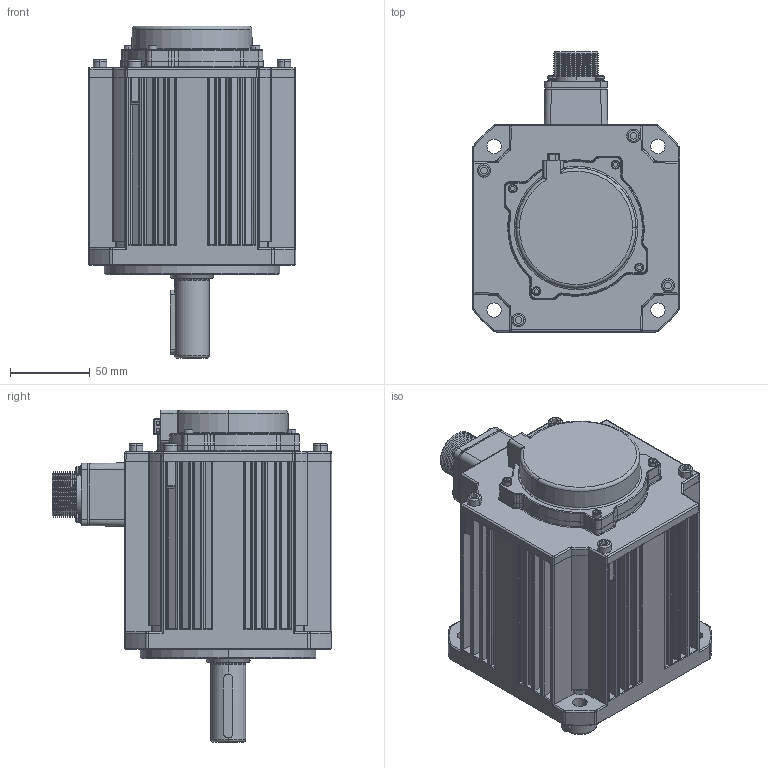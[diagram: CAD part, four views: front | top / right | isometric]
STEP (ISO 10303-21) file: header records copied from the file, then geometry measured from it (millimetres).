
FILE_DESCRIPTION (( 'STEP AP203' ), '1' );
FILE_NAME ('G3系列130伺服-1800W电机三维图-三竹插拔式.STEP', '2023-09-27T08:56:17', ( '微软用户' ), ( '微软中国' ), 'SwSTEP 2.0', 'SolidWorks 2016', '' );
FILE_SCHEMA (( 'CONFIG_CONTROL_DESIGN' ));
Products named in the file (1): G3系列130伺服-1800W电机三维图-三竹插拔式
Bounding box: 130 x 175.3 x 208 mm (x, y, z)
Surface area: 294069.5 mm2 (no closed solid volume)
Topology: 0 solids, 21 shells, 3563 faces, 9174 edges, 5741 vertices
Faces by surface type: plane 1530, cylinder 742, bspline 561, cone 464, torus 199, sphere 67
Entity records: 125629 total; most frequent: CARTESIAN_POINT 42806, ORIENTED_EDGE 18140, DIRECTION 15933, EDGE_CURVE 9084, VERTEX_POINT 5729, AXIS2_PLACEMENT_3D 5348, VECTOR 5237, LINE 5237
